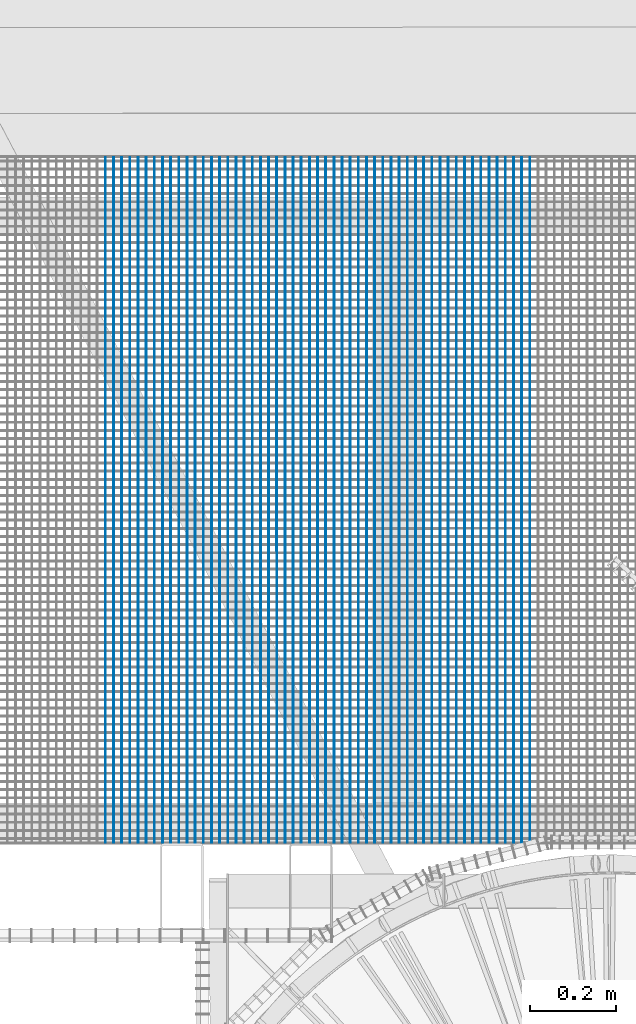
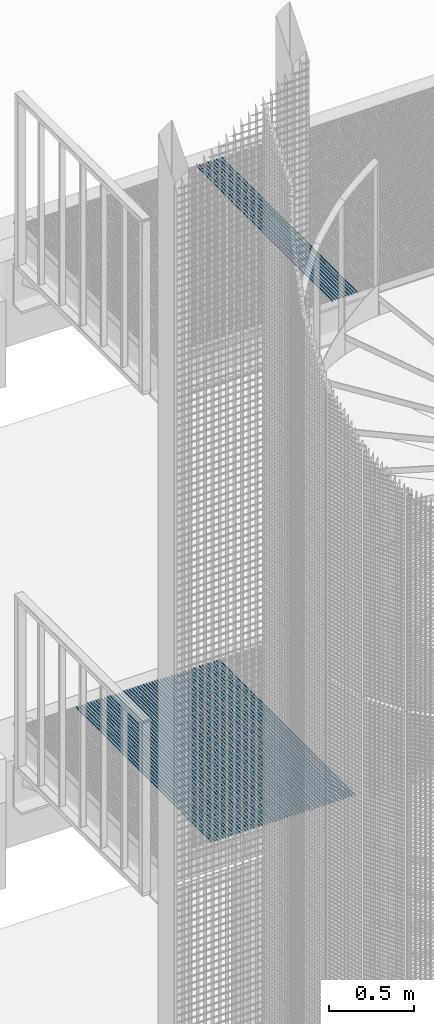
# One storey, part 94 of 1148: 62 beams, 2 elements without a shape of their own.
"""IFC2X3 building model written with IfcOpenShell, lengths in millimetres."""

from ifc_helpers import new_model, si_unit, frame, origin_with_axes, origin_2d_with_axis, place, context, subcontext, project, spatial, rectangle, extrude, material, type_object, element, aggregate, save


model = new_model("IFC2X3")

# Units and contexts
model_context = context("Model", 3, precision=1e-05, world=origin_with_axes())
body_context = subcontext(model_context, "Body", "Model", "MODEL_VIEW")
ifc_project = project(units=[si_unit("LENGTHUNIT", "METRE", prefix="MILLI"), si_unit("AREAUNIT", "SQUARE_METRE"), si_unit("VOLUMEUNIT", "CUBIC_METRE"), si_unit("MASSUNIT", "GRAM", prefix="KILO"), si_unit("TIMEUNIT", "SECOND"), si_unit("PLANEANGLEUNIT", "RADIAN"), si_unit("SOLIDANGLEUNIT", "STERADIAN"), si_unit("THERMODYNAMICTEMPERATUREUNIT", "DEGREE_CELSIUS"), si_unit("LUMINOUSINTENSITYUNIT", "LUMEN")], contexts=[model_context])

# Site, building, storey
site_placement = place(None, origin_with_axes())
site = spatial("IfcSite", under=ifc_project, at=site_placement, Name="Undefined", CompositionType="ELEMENT")
building_placement = place(site_placement, origin_with_axes())
building = spatial("IfcBuilding", under=site, at=building_placement, Name="Undefined", CompositionType="ELEMENT")
storey_placement = place(building_placement, origin_with_axes())
storey = spatial("IfcBuildingStorey", under=building, at=storey_placement, Name="Undefined", CompositionType="ELEMENT", Elevation=0.0)

# Assembly, beams
assembly_1_placement = place(storey_placement, origin_with_axes())
assembly_1 = element("IfcElementAssembly", 1, at=assembly_1_placement, inside=storey, Name="BORDURE", AssemblyPlace="NOTDEFINED", PredefinedType="NOTDEFINED")
ifc_material = material(Name="STEEL/S235JR")
beam_type = type_object("IfcBeamType", Name="PL2*10", PredefinedType="NOTDEFINED")
beam_1_placement = place(assembly_1_placement, frame((21239.1154247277, 1102.00054218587, 13685.0), z_axis=(0.0, 0.0, 1.0), x_axis=(-4.50599999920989e-06, 0.999999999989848, 0.0)))
beam_1 = element("IfcBeam", 2, at=beam_1_placement, type_object=beam_type, material=ifc_material, Name="ENTRETOISE", context=body_context, shape_type="SweptSolid", body=[
    extrude(rectangle(XDim=2.0, YDim=10.0, at=origin_2d_with_axis()), frame((1596.0000000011, -1.35186458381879e-18, -7.27595761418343e-12), z_axis=(-1.0, 0.0, 0.0), x_axis=(0.0, -1.0, 0.0)), (0.0, 0.0, 1.0), 1596.0),
])
beam_2_placement = place(assembly_1_placement, frame((21258.1154247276, 1102.00063570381, 13685.0), z_axis=(0.0, 0.0, 1.0), x_axis=(-4.50599999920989e-06, 0.999999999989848, 0.0)))
beam_2 = element("IfcBeam", 3, at=beam_2_placement, type_object=beam_type, material=ifc_material, Name="ENTRETOISE", context=body_context, shape_type="SweptSolid", body=[
    extrude(rectangle(XDim=2.0, YDim=10.0, at=origin_2d_with_axis()), frame((1596.0000000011, -1.35186458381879e-18, -7.27595761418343e-12), z_axis=(-1.0, 0.0, 0.0), x_axis=(0.0, -1.0, 0.0)), (0.0, 0.0, 1.0), 1596.0),
])
beam_3_placement = place(assembly_1_placement, frame((21277.1154247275, 1102.00072922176, 13685.0), z_axis=(0.0, 0.0, 1.0), x_axis=(-4.50599999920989e-06, 0.999999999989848, 0.0)))
beam_3 = element("IfcBeam", 4, at=beam_3_placement, type_object=beam_type, material=ifc_material, Name="ENTRETOISE", context=body_context, shape_type="SweptSolid", body=[
    extrude(rectangle(XDim=2.0, YDim=10.0, at=origin_2d_with_axis()), frame((1596.0000000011, -1.35186458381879e-18, -7.27595761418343e-12), z_axis=(-1.0, 0.0, 0.0), x_axis=(0.0, -1.0, 0.0)), (0.0, 0.0, 1.0), 1596.0),
])
beam_4_placement = place(assembly_1_placement, frame((21296.1154247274, 1102.00082273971, 13685.0), z_axis=(0.0, 0.0, 1.0), x_axis=(-4.50599999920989e-06, 0.999999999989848, 0.0)))
beam_4 = element("IfcBeam", 5, at=beam_4_placement, type_object=beam_type, material=ifc_material, Name="ENTRETOISE", context=body_context, shape_type="SweptSolid", body=[
    extrude(rectangle(XDim=2.0, YDim=10.0, at=origin_2d_with_axis()), frame((1596.0000000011, -1.35186458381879e-18, -7.27595761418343e-12), z_axis=(-1.0, 0.0, 0.0), x_axis=(0.0, -1.0, 0.0)), (0.0, 0.0, 1.0), 1596.0),
])
beam_5_placement = place(assembly_1_placement, frame((21315.1154247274, 1102.00091625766, 13685.0), z_axis=(0.0, 0.0, 1.0), x_axis=(-4.50599999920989e-06, 0.999999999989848, 0.0)))
beam_5 = element("IfcBeam", 6, at=beam_5_placement, type_object=beam_type, material=ifc_material, Name="ENTRETOISE", context=body_context, shape_type="SweptSolid", body=[
    extrude(rectangle(XDim=2.0, YDim=10.0, at=origin_2d_with_axis()), frame((1596.0000000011, -1.35186458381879e-18, -7.27595761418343e-12), z_axis=(-1.0, 0.0, 0.0), x_axis=(0.0, -1.0, 0.0)), (0.0, 0.0, 1.0), 1596.0),
])
beam_6_placement = place(assembly_1_placement, frame((21334.1154247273, 1102.00100977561, 13685.0), z_axis=(0.0, 0.0, 1.0), x_axis=(-4.50599999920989e-06, 0.999999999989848, 0.0)))
beam_6 = element("IfcBeam", 7, at=beam_6_placement, type_object=beam_type, material=ifc_material, Name="ENTRETOISE", context=body_context, shape_type="SweptSolid", body=[
    extrude(rectangle(XDim=2.0, YDim=10.0, at=origin_2d_with_axis()), frame((1596.0000000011, -1.35186458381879e-18, -7.27595761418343e-12), z_axis=(-1.0, 0.0, 0.0), x_axis=(0.0, -1.0, 0.0)), (0.0, 0.0, 1.0), 1596.0),
])
beam_7_placement = place(assembly_1_placement, frame((21353.1154247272, 1102.00110329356, 13685.0), z_axis=(0.0, 0.0, 1.0), x_axis=(-4.50599999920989e-06, 0.999999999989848, 0.0)))
beam_7 = element("IfcBeam", 8, at=beam_7_placement, type_object=beam_type, material=ifc_material, Name="ENTRETOISE", context=body_context, shape_type="SweptSolid", body=[
    extrude(rectangle(XDim=2.0, YDim=10.0, at=origin_2d_with_axis()), frame((1596.0000000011, -1.35186458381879e-18, -7.27595761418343e-12), z_axis=(-1.0, 0.0, 0.0), x_axis=(0.0, -1.0, 0.0)), (0.0, 0.0, 1.0), 1596.0),
])
beam_8_placement = place(assembly_1_placement, frame((21372.1154247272, 1102.00119681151, 13685.0), z_axis=(0.0, 0.0, 1.0), x_axis=(-4.50599999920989e-06, 0.999999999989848, 0.0)))
beam_8 = element("IfcBeam", 9, at=beam_8_placement, type_object=beam_type, material=ifc_material, Name="ENTRETOISE", context=body_context, shape_type="SweptSolid", body=[
    extrude(rectangle(XDim=2.0, YDim=10.0, at=origin_2d_with_axis()), frame((1596.0000000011, -1.35186458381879e-18, -7.27595761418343e-12), z_axis=(-1.0, 0.0, 0.0), x_axis=(0.0, -1.0, 0.0)), (0.0, 0.0, 1.0), 1596.0),
])
beam_9_placement = place(assembly_1_placement, frame((21391.1154247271, 1102.00129032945, 13685.0), z_axis=(0.0, 0.0, 1.0), x_axis=(-4.50599999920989e-06, 0.999999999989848, 0.0)))
beam_9 = element("IfcBeam", 10, at=beam_9_placement, type_object=beam_type, material=ifc_material, Name="ENTRETOISE", context=body_context, shape_type="SweptSolid", body=[
    extrude(rectangle(XDim=2.0, YDim=10.0, at=origin_2d_with_axis()), frame((1596.0000000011, -1.35186458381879e-18, -7.27595761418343e-12), z_axis=(-1.0, 0.0, 0.0), x_axis=(0.0, -1.0, 0.0)), (0.0, 0.0, 1.0), 1596.0),
])
beam_10_placement = place(assembly_1_placement, frame((21410.115424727, 1102.0013838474, 13685.0), z_axis=(0.0, 0.0, 1.0), x_axis=(-4.50599999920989e-06, 0.999999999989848, 0.0)))
beam_10 = element("IfcBeam", 11, at=beam_10_placement, type_object=beam_type, material=ifc_material, Name="ENTRETOISE", context=body_context, shape_type="SweptSolid", body=[
    extrude(rectangle(XDim=2.0, YDim=10.0, at=origin_2d_with_axis()), frame((1596.0000000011, -1.35186458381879e-18, -7.27595761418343e-12), z_axis=(-1.0, 0.0, 0.0), x_axis=(0.0, -1.0, 0.0)), (0.0, 0.0, 1.0), 1596.0),
])
aggregate(assembly_1, [beam_1, beam_2, beam_3, beam_4, beam_5, beam_6, beam_7, beam_8, beam_9, beam_10])

assembly_2_placement = place(storey_placement, origin_with_axes())
assembly_2 = element("IfcElementAssembly", 12, at=assembly_2_placement, inside=storey, Name="BORDURE", AssemblyPlace="NOTDEFINED", PredefinedType="NOTDEFINED")
beam_11_placement = place(assembly_2_placement, frame((20422.1154247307, 1101.99652091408, 10085.0), z_axis=(0.0, 0.0, 1.0), x_axis=(-4.50599999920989e-06, 0.999999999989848, 0.0)))
beam_11 = element("IfcBeam", 13, at=beam_11_placement, type_object=beam_type, material=ifc_material, Name="ENTRETOISE", context=body_context, shape_type="SweptSolid", body=[
    extrude(rectangle(XDim=2.0, YDim=10.0, at=origin_2d_with_axis()), frame((1596.0000000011, -1.35186458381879e-18, -7.27595761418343e-12), z_axis=(-1.0, 0.0, 0.0), x_axis=(0.0, -1.0, 0.0)), (0.0, 0.0, 1.0), 1596.0),
])
beam_12_placement = place(assembly_2_placement, frame((20441.1154247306, 1101.99661443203, 10085.0), z_axis=(0.0, 0.0, 1.0), x_axis=(-4.50599999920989e-06, 0.999999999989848, 0.0)))
beam_12 = element("IfcBeam", 14, at=beam_12_placement, type_object=beam_type, material=ifc_material, Name="ENTRETOISE", context=body_context, shape_type="SweptSolid", body=[
    extrude(rectangle(XDim=2.0, YDim=10.0, at=origin_2d_with_axis()), frame((1596.0000000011, -1.35186458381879e-18, -7.27595761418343e-12), z_axis=(-1.0, 0.0, 0.0), x_axis=(0.0, -1.0, 0.0)), (0.0, 0.0, 1.0), 1596.0),
])
beam_13_placement = place(assembly_2_placement, frame((20460.1154247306, 1101.99670794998, 10085.0), z_axis=(0.0, 0.0, 1.0), x_axis=(-4.50599999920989e-06, 0.999999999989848, 0.0)))
beam_13 = element("IfcBeam", 15, at=beam_13_placement, type_object=beam_type, material=ifc_material, Name="ENTRETOISE", context=body_context, shape_type="SweptSolid", body=[
    extrude(rectangle(XDim=2.0, YDim=10.0, at=origin_2d_with_axis()), frame((1596.0000000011, -1.35186458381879e-18, -7.27595761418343e-12), z_axis=(-1.0, 0.0, 0.0), x_axis=(0.0, -1.0, 0.0)), (0.0, 0.0, 1.0), 1596.0),
])
beam_14_placement = place(assembly_2_placement, frame((20479.1154247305, 1101.99680146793, 10085.0), z_axis=(0.0, 0.0, 1.0), x_axis=(-4.50599999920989e-06, 0.999999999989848, 0.0)))
beam_14 = element("IfcBeam", 16, at=beam_14_placement, type_object=beam_type, material=ifc_material, Name="ENTRETOISE", context=body_context, shape_type="SweptSolid", body=[
    extrude(rectangle(XDim=2.0, YDim=10.0, at=origin_2d_with_axis()), frame((1596.0000000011, -1.35186458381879e-18, -7.27595761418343e-12), z_axis=(-1.0, 0.0, 0.0), x_axis=(0.0, -1.0, 0.0)), (0.0, 0.0, 1.0), 1596.0),
])
beam_15_placement = place(assembly_2_placement, frame((20498.1154247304, 1101.99689498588, 10085.0), z_axis=(0.0, 0.0, 1.0), x_axis=(-4.50599999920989e-06, 0.999999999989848, 0.0)))
beam_15 = element("IfcBeam", 17, at=beam_15_placement, type_object=beam_type, material=ifc_material, Name="ENTRETOISE", context=body_context, shape_type="SweptSolid", body=[
    extrude(rectangle(XDim=2.0, YDim=10.0, at=origin_2d_with_axis()), frame((1596.0000000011, -1.35186458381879e-18, -7.27595761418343e-12), z_axis=(-1.0, 0.0, 0.0), x_axis=(0.0, -1.0, 0.0)), (0.0, 0.0, 1.0), 1596.0),
])
beam_16_placement = place(assembly_2_placement, frame((20517.1154247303, 1101.99698850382, 10085.0), z_axis=(0.0, 0.0, 1.0), x_axis=(-4.50599999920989e-06, 0.999999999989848, 0.0)))
beam_16 = element("IfcBeam", 18, at=beam_16_placement, type_object=beam_type, material=ifc_material, Name="ENTRETOISE", context=body_context, shape_type="SweptSolid", body=[
    extrude(rectangle(XDim=2.0, YDim=10.0, at=origin_2d_with_axis()), frame((1596.0000000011, -1.35186458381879e-18, -7.27595761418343e-12), z_axis=(-1.0, 0.0, 0.0), x_axis=(0.0, -1.0, 0.0)), (0.0, 0.0, 1.0), 1596.0),
])
beam_17_placement = place(assembly_2_placement, frame((20536.1154247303, 1101.99708202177, 10085.0), z_axis=(0.0, 0.0, 1.0), x_axis=(-4.50599999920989e-06, 0.999999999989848, 0.0)))
beam_17 = element("IfcBeam", 19, at=beam_17_placement, type_object=beam_type, material=ifc_material, Name="ENTRETOISE", context=body_context, shape_type="SweptSolid", body=[
    extrude(rectangle(XDim=2.0, YDim=10.0, at=origin_2d_with_axis()), frame((1596.0000000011, -1.35186458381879e-18, -7.27595761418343e-12), z_axis=(-1.0, 0.0, 0.0), x_axis=(0.0, -1.0, 0.0)), (0.0, 0.0, 1.0), 1596.0),
])
beam_18_placement = place(assembly_2_placement, frame((20555.1154247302, 1101.99717553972, 10085.0), z_axis=(0.0, 0.0, 1.0), x_axis=(-4.50599999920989e-06, 0.999999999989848, 0.0)))
beam_18 = element("IfcBeam", 20, at=beam_18_placement, type_object=beam_type, material=ifc_material, Name="ENTRETOISE", context=body_context, shape_type="SweptSolid", body=[
    extrude(rectangle(XDim=2.0, YDim=10.0, at=origin_2d_with_axis()), frame((1596.0000000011, -1.35186458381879e-18, -7.27595761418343e-12), z_axis=(-1.0, 0.0, 0.0), x_axis=(0.0, -1.0, 0.0)), (0.0, 0.0, 1.0), 1596.0),
])
beam_19_placement = place(assembly_2_placement, frame((20574.1154247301, 1101.99726905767, 10085.0), z_axis=(0.0, 0.0, 1.0), x_axis=(-4.50599999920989e-06, 0.999999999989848, 0.0)))
beam_19 = element("IfcBeam", 21, at=beam_19_placement, type_object=beam_type, material=ifc_material, Name="ENTRETOISE", context=body_context, shape_type="SweptSolid", body=[
    extrude(rectangle(XDim=2.0, YDim=10.0, at=origin_2d_with_axis()), frame((1596.0000000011, -1.35186458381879e-18, -7.27595761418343e-12), z_axis=(-1.0, 0.0, 0.0), x_axis=(0.0, -1.0, 0.0)), (0.0, 0.0, 1.0), 1596.0),
])
beam_20_placement = place(assembly_2_placement, frame((20593.1154247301, 1101.99736257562, 10085.0), z_axis=(0.0, 0.0, 1.0), x_axis=(-4.50599999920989e-06, 0.999999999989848, 0.0)))
beam_20 = element("IfcBeam", 22, at=beam_20_placement, type_object=beam_type, material=ifc_material, Name="ENTRETOISE", context=body_context, shape_type="SweptSolid", body=[
    extrude(rectangle(XDim=2.0, YDim=10.0, at=origin_2d_with_axis()), frame((1596.0000000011, -1.35186458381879e-18, -7.27595761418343e-12), z_axis=(-1.0, 0.0, 0.0), x_axis=(0.0, -1.0, 0.0)), (0.0, 0.0, 1.0), 1596.0),
])
beam_21_placement = place(assembly_2_placement, frame((20612.11542473, 1101.99745609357, 10085.0), z_axis=(0.0, 0.0, 1.0), x_axis=(-4.50599999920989e-06, 0.999999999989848, 0.0)))
beam_21 = element("IfcBeam", 23, at=beam_21_placement, type_object=beam_type, material=ifc_material, Name="ENTRETOISE", context=body_context, shape_type="SweptSolid", body=[
    extrude(rectangle(XDim=2.0, YDim=10.0, at=origin_2d_with_axis()), frame((1596.0000000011, -1.35186458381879e-18, -7.27595761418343e-12), z_axis=(-1.0, 0.0, 0.0), x_axis=(0.0, -1.0, 0.0)), (0.0, 0.0, 1.0), 1596.0),
])
beam_22_placement = place(assembly_2_placement, frame((20631.1154247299, 1101.99754961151, 10085.0), z_axis=(0.0, 0.0, 1.0), x_axis=(-4.50599999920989e-06, 0.999999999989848, 0.0)))
beam_22 = element("IfcBeam", 24, at=beam_22_placement, type_object=beam_type, material=ifc_material, Name="ENTRETOISE", context=body_context, shape_type="SweptSolid", body=[
    extrude(rectangle(XDim=2.0, YDim=10.0, at=origin_2d_with_axis()), frame((1596.0000000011, -1.35186458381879e-18, -7.27595761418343e-12), z_axis=(-1.0, 0.0, 0.0), x_axis=(0.0, -1.0, 0.0)), (0.0, 0.0, 1.0), 1596.0),
])
beam_23_placement = place(assembly_2_placement, frame((20650.1154247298, 1101.99764312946, 10085.0), z_axis=(0.0, 0.0, 1.0), x_axis=(-4.50599999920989e-06, 0.999999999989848, 0.0)))
beam_23 = element("IfcBeam", 25, at=beam_23_placement, type_object=beam_type, material=ifc_material, Name="ENTRETOISE", context=body_context, shape_type="SweptSolid", body=[
    extrude(rectangle(XDim=2.0, YDim=10.0, at=origin_2d_with_axis()), frame((1596.0000000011, -1.35186458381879e-18, -7.27595761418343e-12), z_axis=(-1.0, 0.0, 0.0), x_axis=(0.0, -1.0, 0.0)), (0.0, 0.0, 1.0), 1596.0),
])
beam_24_placement = place(assembly_2_placement, frame((20669.1154247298, 1101.99773664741, 10085.0), z_axis=(0.0, 0.0, 1.0), x_axis=(-4.50599999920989e-06, 0.999999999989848, 0.0)))
beam_24 = element("IfcBeam", 26, at=beam_24_placement, type_object=beam_type, material=ifc_material, Name="ENTRETOISE", context=body_context, shape_type="SweptSolid", body=[
    extrude(rectangle(XDim=2.0, YDim=10.0, at=origin_2d_with_axis()), frame((1596.0000000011, -1.35186458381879e-18, -7.27595761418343e-12), z_axis=(-1.0, 0.0, 0.0), x_axis=(0.0, -1.0, 0.0)), (0.0, 0.0, 1.0), 1596.0),
])
beam_25_placement = place(assembly_2_placement, frame((20688.1154247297, 1101.99783016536, 10085.0), z_axis=(0.0, 0.0, 1.0), x_axis=(-4.50599999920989e-06, 0.999999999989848, 0.0)))
beam_25 = element("IfcBeam", 27, at=beam_25_placement, type_object=beam_type, material=ifc_material, Name="ENTRETOISE", context=body_context, shape_type="SweptSolid", body=[
    extrude(rectangle(XDim=2.0, YDim=10.0, at=origin_2d_with_axis()), frame((1596.0000000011, -1.35186458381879e-18, -7.27595761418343e-12), z_axis=(-1.0, 0.0, 0.0), x_axis=(0.0, -1.0, 0.0)), (0.0, 0.0, 1.0), 1596.0),
])
beam_26_placement = place(assembly_2_placement, frame((20707.1154247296, 1101.99792368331, 10085.0), z_axis=(0.0, 0.0, 1.0), x_axis=(-4.50599999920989e-06, 0.999999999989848, 0.0)))
beam_26 = element("IfcBeam", 28, at=beam_26_placement, type_object=beam_type, material=ifc_material, Name="ENTRETOISE", context=body_context, shape_type="SweptSolid", body=[
    extrude(rectangle(XDim=2.0, YDim=10.0, at=origin_2d_with_axis()), frame((1596.0000000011, -1.35186458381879e-18, -7.27595761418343e-12), z_axis=(-1.0, 0.0, 0.0), x_axis=(0.0, -1.0, 0.0)), (0.0, 0.0, 1.0), 1596.0),
])
beam_27_placement = place(assembly_2_placement, frame((20726.1154247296, 1101.99801720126, 10085.0), z_axis=(0.0, 0.0, 1.0), x_axis=(-4.50599999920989e-06, 0.999999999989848, 0.0)))
beam_27 = element("IfcBeam", 29, at=beam_27_placement, type_object=beam_type, material=ifc_material, Name="ENTRETOISE", context=body_context, shape_type="SweptSolid", body=[
    extrude(rectangle(XDim=2.0, YDim=10.0, at=origin_2d_with_axis()), frame((1596.0000000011, -1.35186458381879e-18, -7.27595761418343e-12), z_axis=(-1.0, 0.0, 0.0), x_axis=(0.0, -1.0, 0.0)), (0.0, 0.0, 1.0), 1596.0),
])
beam_28_placement = place(assembly_2_placement, frame((20745.1154247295, 1101.99811071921, 10085.0), z_axis=(0.0, 0.0, 1.0), x_axis=(-4.50599999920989e-06, 0.999999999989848, 0.0)))
beam_28 = element("IfcBeam", 30, at=beam_28_placement, type_object=beam_type, material=ifc_material, Name="ENTRETOISE", context=body_context, shape_type="SweptSolid", body=[
    extrude(rectangle(XDim=2.0, YDim=10.0, at=origin_2d_with_axis()), frame((1596.0000000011, -1.35186458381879e-18, -7.27595761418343e-12), z_axis=(-1.0, 0.0, 0.0), x_axis=(0.0, -1.0, 0.0)), (0.0, 0.0, 1.0), 1596.0),
])
beam_29_placement = place(assembly_2_placement, frame((20764.1154247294, 1101.99820423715, 10085.0), z_axis=(0.0, 0.0, 1.0), x_axis=(-4.50599999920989e-06, 0.999999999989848, 0.0)))
beam_29 = element("IfcBeam", 31, at=beam_29_placement, type_object=beam_type, material=ifc_material, Name="ENTRETOISE", context=body_context, shape_type="SweptSolid", body=[
    extrude(rectangle(XDim=2.0, YDim=10.0, at=origin_2d_with_axis()), frame((1596.0000000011, -1.35186458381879e-18, -7.27595761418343e-12), z_axis=(-1.0, 0.0, 0.0), x_axis=(0.0, -1.0, 0.0)), (0.0, 0.0, 1.0), 1596.0),
])
beam_30_placement = place(assembly_2_placement, frame((20783.1154247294, 1101.9982977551, 10085.0), z_axis=(0.0, 0.0, 1.0), x_axis=(-4.50599999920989e-06, 0.999999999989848, 0.0)))
beam_30 = element("IfcBeam", 32, at=beam_30_placement, type_object=beam_type, material=ifc_material, Name="ENTRETOISE", context=body_context, shape_type="SweptSolid", body=[
    extrude(rectangle(XDim=2.0, YDim=10.0, at=origin_2d_with_axis()), frame((1596.0000000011, -1.35186458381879e-18, -7.27595761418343e-12), z_axis=(-1.0, 0.0, 0.0), x_axis=(0.0, -1.0, 0.0)), (0.0, 0.0, 1.0), 1596.0),
])
beam_31_placement = place(assembly_2_placement, frame((20802.1154247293, 1101.99839127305, 10085.0), z_axis=(0.0, 0.0, 1.0), x_axis=(-4.50599999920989e-06, 0.999999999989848, 0.0)))
beam_31 = element("IfcBeam", 33, at=beam_31_placement, type_object=beam_type, material=ifc_material, Name="ENTRETOISE", context=body_context, shape_type="SweptSolid", body=[
    extrude(rectangle(XDim=2.0, YDim=10.0, at=origin_2d_with_axis()), frame((1596.0000000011, -1.35186458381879e-18, -7.27595761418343e-12), z_axis=(-1.0, 0.0, 0.0), x_axis=(0.0, -1.0, 0.0)), (0.0, 0.0, 1.0), 1596.0),
])
beam_32_placement = place(assembly_2_placement, frame((20821.1154247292, 1101.998484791, 10085.0), z_axis=(0.0, 0.0, 1.0), x_axis=(-4.50599999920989e-06, 0.999999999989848, 0.0)))
beam_32 = element("IfcBeam", 34, at=beam_32_placement, type_object=beam_type, material=ifc_material, Name="ENTRETOISE", context=body_context, shape_type="SweptSolid", body=[
    extrude(rectangle(XDim=2.0, YDim=10.0, at=origin_2d_with_axis()), frame((1596.0000000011, -1.35186458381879e-18, -7.27595761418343e-12), z_axis=(-1.0, 0.0, 0.0), x_axis=(0.0, -1.0, 0.0)), (0.0, 0.0, 1.0), 1596.0),
])
beam_33_placement = place(assembly_2_placement, frame((20840.1154247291, 1101.99857830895, 10085.0), z_axis=(0.0, 0.0, 1.0), x_axis=(-4.50599999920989e-06, 0.999999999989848, 0.0)))
beam_33 = element("IfcBeam", 35, at=beam_33_placement, type_object=beam_type, material=ifc_material, Name="ENTRETOISE", context=body_context, shape_type="SweptSolid", body=[
    extrude(rectangle(XDim=2.0, YDim=10.0, at=origin_2d_with_axis()), frame((1596.0000000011, -1.35186458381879e-18, -7.27595761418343e-12), z_axis=(-1.0, 0.0, 0.0), x_axis=(0.0, -1.0, 0.0)), (0.0, 0.0, 1.0), 1596.0),
])
beam_34_placement = place(assembly_2_placement, frame((20859.1154247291, 1101.9986718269, 10085.0), z_axis=(0.0, 0.0, 1.0), x_axis=(-4.50599999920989e-06, 0.999999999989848, 0.0)))
beam_34 = element("IfcBeam", 36, at=beam_34_placement, type_object=beam_type, material=ifc_material, Name="ENTRETOISE", context=body_context, shape_type="SweptSolid", body=[
    extrude(rectangle(XDim=2.0, YDim=10.0, at=origin_2d_with_axis()), frame((1596.0000000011, -1.35186458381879e-18, -7.27595761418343e-12), z_axis=(-1.0, 0.0, 0.0), x_axis=(0.0, -1.0, 0.0)), (0.0, 0.0, 1.0), 1596.0),
])
beam_35_placement = place(assembly_2_placement, frame((20878.115424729, 1101.99876534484, 10085.0), z_axis=(0.0, 0.0, 1.0), x_axis=(-4.50599999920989e-06, 0.999999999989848, 0.0)))
beam_35 = element("IfcBeam", 37, at=beam_35_placement, type_object=beam_type, material=ifc_material, Name="ENTRETOISE", context=body_context, shape_type="SweptSolid", body=[
    extrude(rectangle(XDim=2.0, YDim=10.0, at=origin_2d_with_axis()), frame((1596.0000000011, -1.35186458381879e-18, -7.27595761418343e-12), z_axis=(-1.0, 0.0, 0.0), x_axis=(0.0, -1.0, 0.0)), (0.0, 0.0, 1.0), 1596.0),
])
beam_36_placement = place(assembly_2_placement, frame((20897.1154247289, 1101.99885886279, 10085.0), z_axis=(0.0, 0.0, 1.0), x_axis=(-4.50599999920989e-06, 0.999999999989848, 0.0)))
beam_36 = element("IfcBeam", 38, at=beam_36_placement, type_object=beam_type, material=ifc_material, Name="ENTRETOISE", context=body_context, shape_type="SweptSolid", body=[
    extrude(rectangle(XDim=2.0, YDim=10.0, at=origin_2d_with_axis()), frame((1596.0000000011, -1.35186458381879e-18, -7.27595761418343e-12), z_axis=(-1.0, 0.0, 0.0), x_axis=(0.0, -1.0, 0.0)), (0.0, 0.0, 1.0), 1596.0),
])
beam_37_placement = place(assembly_2_placement, frame((20916.1154247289, 1101.99895238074, 10085.0), z_axis=(0.0, 0.0, 1.0), x_axis=(-4.50599999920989e-06, 0.999999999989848, 0.0)))
beam_37 = element("IfcBeam", 39, at=beam_37_placement, type_object=beam_type, material=ifc_material, Name="ENTRETOISE", context=body_context, shape_type="SweptSolid", body=[
    extrude(rectangle(XDim=2.0, YDim=10.0, at=origin_2d_with_axis()), frame((1596.0000000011, -1.35186458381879e-18, -7.27595761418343e-12), z_axis=(-1.0, 0.0, 0.0), x_axis=(0.0, -1.0, 0.0)), (0.0, 0.0, 1.0), 1596.0),
])
beam_38_placement = place(assembly_2_placement, frame((20935.1154247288, 1101.99904589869, 10085.0), z_axis=(0.0, 0.0, 1.0), x_axis=(-4.50599999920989e-06, 0.999999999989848, 0.0)))
beam_38 = element("IfcBeam", 40, at=beam_38_placement, type_object=beam_type, material=ifc_material, Name="ENTRETOISE", context=body_context, shape_type="SweptSolid", body=[
    extrude(rectangle(XDim=2.0, YDim=10.0, at=origin_2d_with_axis()), frame((1596.0000000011, -1.35186458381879e-18, -7.27595761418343e-12), z_axis=(-1.0, 0.0, 0.0), x_axis=(0.0, -1.0, 0.0)), (0.0, 0.0, 1.0), 1596.0),
])
beam_39_placement = place(assembly_2_placement, frame((20954.1154247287, 1101.99913941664, 10085.0), z_axis=(0.0, 0.0, 1.0), x_axis=(-4.50599999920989e-06, 0.999999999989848, 0.0)))
beam_39 = element("IfcBeam", 41, at=beam_39_placement, type_object=beam_type, material=ifc_material, Name="ENTRETOISE", context=body_context, shape_type="SweptSolid", body=[
    extrude(rectangle(XDim=2.0, YDim=10.0, at=origin_2d_with_axis()), frame((1596.0000000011, -1.35186458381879e-18, -7.27595761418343e-12), z_axis=(-1.0, 0.0, 0.0), x_axis=(0.0, -1.0, 0.0)), (0.0, 0.0, 1.0), 1596.0),
])
beam_40_placement = place(assembly_2_placement, frame((20973.1154247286, 1101.99923293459, 10085.0), z_axis=(0.0, 0.0, 1.0), x_axis=(-4.50599999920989e-06, 0.999999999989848, 0.0)))
beam_40 = element("IfcBeam", 42, at=beam_40_placement, type_object=beam_type, material=ifc_material, Name="ENTRETOISE", context=body_context, shape_type="SweptSolid", body=[
    extrude(rectangle(XDim=2.0, YDim=10.0, at=origin_2d_with_axis()), frame((1596.0000000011, -1.35186458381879e-18, -7.27595761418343e-12), z_axis=(-1.0, 0.0, 0.0), x_axis=(0.0, -1.0, 0.0)), (0.0, 0.0, 1.0), 1596.0),
])
beam_41_placement = place(assembly_2_placement, frame((20992.1154247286, 1101.99932645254, 10085.0), z_axis=(0.0, 0.0, 1.0), x_axis=(-4.50599999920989e-06, 0.999999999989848, 0.0)))
beam_41 = element("IfcBeam", 43, at=beam_41_placement, type_object=beam_type, material=ifc_material, Name="ENTRETOISE", context=body_context, shape_type="SweptSolid", body=[
    extrude(rectangle(XDim=2.0, YDim=10.0, at=origin_2d_with_axis()), frame((1596.0000000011, -1.35186458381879e-18, -7.27595761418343e-12), z_axis=(-1.0, 0.0, 0.0), x_axis=(0.0, -1.0, 0.0)), (0.0, 0.0, 1.0), 1596.0),
])
beam_42_placement = place(assembly_2_placement, frame((21011.1154247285, 1101.99941997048, 10085.0), z_axis=(0.0, 0.0, 1.0), x_axis=(-4.50599999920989e-06, 0.999999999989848, 0.0)))
beam_42 = element("IfcBeam", 44, at=beam_42_placement, type_object=beam_type, material=ifc_material, Name="ENTRETOISE", context=body_context, shape_type="SweptSolid", body=[
    extrude(rectangle(XDim=2.0, YDim=10.0, at=origin_2d_with_axis()), frame((1596.0000000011, -1.35186458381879e-18, -7.27595761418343e-12), z_axis=(-1.0, 0.0, 0.0), x_axis=(0.0, -1.0, 0.0)), (0.0, 0.0, 1.0), 1596.0),
])
beam_43_placement = place(assembly_2_placement, frame((21030.1154247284, 1101.99951348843, 10085.0), z_axis=(0.0, 0.0, 1.0), x_axis=(-4.50599999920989e-06, 0.999999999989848, 0.0)))
beam_43 = element("IfcBeam", 45, at=beam_43_placement, type_object=beam_type, material=ifc_material, Name="ENTRETOISE", context=body_context, shape_type="SweptSolid", body=[
    extrude(rectangle(XDim=2.0, YDim=10.0, at=origin_2d_with_axis()), frame((1596.0000000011, -1.35186458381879e-18, -7.27595761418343e-12), z_axis=(-1.0, 0.0, 0.0), x_axis=(0.0, -1.0, 0.0)), (0.0, 0.0, 1.0), 1596.0),
])
beam_44_placement = place(assembly_2_placement, frame((21049.1154247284, 1101.99960700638, 10085.0), z_axis=(0.0, 0.0, 1.0), x_axis=(-4.50599999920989e-06, 0.999999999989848, 0.0)))
beam_44 = element("IfcBeam", 46, at=beam_44_placement, type_object=beam_type, material=ifc_material, Name="ENTRETOISE", context=body_context, shape_type="SweptSolid", body=[
    extrude(rectangle(XDim=2.0, YDim=10.0, at=origin_2d_with_axis()), frame((1596.0000000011, -1.35186458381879e-18, -7.27595761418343e-12), z_axis=(-1.0, 0.0, 0.0), x_axis=(0.0, -1.0, 0.0)), (0.0, 0.0, 1.0), 1596.0),
])
beam_45_placement = place(assembly_2_placement, frame((21068.1154247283, 1101.99970052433, 10085.0), z_axis=(0.0, 0.0, 1.0), x_axis=(-4.50599999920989e-06, 0.999999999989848, 0.0)))
beam_45 = element("IfcBeam", 47, at=beam_45_placement, type_object=beam_type, material=ifc_material, Name="ENTRETOISE", context=body_context, shape_type="SweptSolid", body=[
    extrude(rectangle(XDim=2.0, YDim=10.0, at=origin_2d_with_axis()), frame((1596.0000000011, -1.35186458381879e-18, -7.27595761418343e-12), z_axis=(-1.0, 0.0, 0.0), x_axis=(0.0, -1.0, 0.0)), (0.0, 0.0, 1.0), 1596.0),
])
beam_46_placement = place(assembly_2_placement, frame((21087.1154247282, 1101.99979404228, 10085.0), z_axis=(0.0, 0.0, 1.0), x_axis=(-4.50599999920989e-06, 0.999999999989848, 0.0)))
beam_46 = element("IfcBeam", 48, at=beam_46_placement, type_object=beam_type, material=ifc_material, Name="ENTRETOISE", context=body_context, shape_type="SweptSolid", body=[
    extrude(rectangle(XDim=2.0, YDim=10.0, at=origin_2d_with_axis()), frame((1596.0000000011, -1.35186458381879e-18, -7.27595761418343e-12), z_axis=(-1.0, 0.0, 0.0), x_axis=(0.0, -1.0, 0.0)), (0.0, 0.0, 1.0), 1596.0),
])
beam_47_placement = place(assembly_2_placement, frame((21106.1154247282, 1101.99988756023, 10085.0), z_axis=(0.0, 0.0, 1.0), x_axis=(-4.50599999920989e-06, 0.999999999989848, 0.0)))
beam_47 = element("IfcBeam", 49, at=beam_47_placement, type_object=beam_type, material=ifc_material, Name="ENTRETOISE", context=body_context, shape_type="SweptSolid", body=[
    extrude(rectangle(XDim=2.0, YDim=10.0, at=origin_2d_with_axis()), frame((1596.0000000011, -1.35186458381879e-18, -7.27595761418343e-12), z_axis=(-1.0, 0.0, 0.0), x_axis=(0.0, -1.0, 0.0)), (0.0, 0.0, 1.0), 1596.0),
])
beam_48_placement = place(assembly_2_placement, frame((21125.1154247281, 1101.99998107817, 10085.0), z_axis=(0.0, 0.0, 1.0), x_axis=(-4.50599999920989e-06, 0.999999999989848, 0.0)))
beam_48 = element("IfcBeam", 50, at=beam_48_placement, type_object=beam_type, material=ifc_material, Name="ENTRETOISE", context=body_context, shape_type="SweptSolid", body=[
    extrude(rectangle(XDim=2.0, YDim=10.0, at=origin_2d_with_axis()), frame((1596.0000000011, -1.35186458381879e-18, -7.27595761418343e-12), z_axis=(-1.0, 0.0, 0.0), x_axis=(0.0, -1.0, 0.0)), (0.0, 0.0, 1.0), 1596.0),
])
beam_49_placement = place(assembly_2_placement, frame((21144.115424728, 1102.00007459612, 10085.0), z_axis=(0.0, 0.0, 1.0), x_axis=(-4.50599999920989e-06, 0.999999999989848, 0.0)))
beam_49 = element("IfcBeam", 51, at=beam_49_placement, type_object=beam_type, material=ifc_material, Name="ENTRETOISE", context=body_context, shape_type="SweptSolid", body=[
    extrude(rectangle(XDim=2.0, YDim=10.0, at=origin_2d_with_axis()), frame((1596.0000000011, -1.35186458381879e-18, -7.27595761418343e-12), z_axis=(-1.0, 0.0, 0.0), x_axis=(0.0, -1.0, 0.0)), (0.0, 0.0, 1.0), 1596.0),
])
beam_50_placement = place(assembly_2_placement, frame((21163.1154247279, 1102.00016811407, 10085.0), z_axis=(0.0, 0.0, 1.0), x_axis=(-4.50599999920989e-06, 0.999999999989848, 0.0)))
beam_50 = element("IfcBeam", 52, at=beam_50_placement, type_object=beam_type, material=ifc_material, Name="ENTRETOISE", context=body_context, shape_type="SweptSolid", body=[
    extrude(rectangle(XDim=2.0, YDim=10.0, at=origin_2d_with_axis()), frame((1596.0000000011, -1.35186458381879e-18, -7.27595761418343e-12), z_axis=(-1.0, 0.0, 0.0), x_axis=(0.0, -1.0, 0.0)), (0.0, 0.0, 1.0), 1596.0),
])
beam_51_placement = place(assembly_2_placement, frame((21182.1154247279, 1102.00026163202, 10085.0), z_axis=(0.0, 0.0, 1.0), x_axis=(-4.50599999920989e-06, 0.999999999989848, 0.0)))
beam_51 = element("IfcBeam", 53, at=beam_51_placement, type_object=beam_type, material=ifc_material, Name="ENTRETOISE", context=body_context, shape_type="SweptSolid", body=[
    extrude(rectangle(XDim=2.0, YDim=10.0, at=origin_2d_with_axis()), frame((1596.0000000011, -1.35186458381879e-18, -7.27595761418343e-12), z_axis=(-1.0, 0.0, 0.0), x_axis=(0.0, -1.0, 0.0)), (0.0, 0.0, 1.0), 1596.0),
])
beam_52_placement = place(assembly_2_placement, frame((21201.1154247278, 1102.00035514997, 10085.0), z_axis=(0.0, 0.0, 1.0), x_axis=(-4.50599999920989e-06, 0.999999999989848, 0.0)))
beam_52 = element("IfcBeam", 54, at=beam_52_placement, type_object=beam_type, material=ifc_material, Name="ENTRETOISE", context=body_context, shape_type="SweptSolid", body=[
    extrude(rectangle(XDim=2.0, YDim=10.0, at=origin_2d_with_axis()), frame((1596.0000000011, -1.35186458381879e-18, -7.27595761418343e-12), z_axis=(-1.0, 0.0, 0.0), x_axis=(0.0, -1.0, 0.0)), (0.0, 0.0, 1.0), 1596.0),
])
beam_53_placement = place(assembly_2_placement, frame((21220.1154247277, 1102.00044866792, 10085.0), z_axis=(0.0, 0.0, 1.0), x_axis=(-4.50599999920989e-06, 0.999999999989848, 0.0)))
beam_53 = element("IfcBeam", 55, at=beam_53_placement, type_object=beam_type, material=ifc_material, Name="ENTRETOISE", context=body_context, shape_type="SweptSolid", body=[
    extrude(rectangle(XDim=2.0, YDim=10.0, at=origin_2d_with_axis()), frame((1596.0000000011, -1.35186458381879e-18, -7.27595761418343e-12), z_axis=(-1.0, 0.0, 0.0), x_axis=(0.0, -1.0, 0.0)), (0.0, 0.0, 1.0), 1596.0),
])
beam_54_placement = place(assembly_2_placement, frame((21239.1154247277, 1102.00054218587, 10085.0), z_axis=(0.0, 0.0, 1.0), x_axis=(-4.50599999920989e-06, 0.999999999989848, 0.0)))
beam_54 = element("IfcBeam", 56, at=beam_54_placement, type_object=beam_type, material=ifc_material, Name="ENTRETOISE", context=body_context, shape_type="SweptSolid", body=[
    extrude(rectangle(XDim=2.0, YDim=10.0, at=origin_2d_with_axis()), frame((1596.0000000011, -1.35186458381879e-18, -7.27595761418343e-12), z_axis=(-1.0, 0.0, 0.0), x_axis=(0.0, -1.0, 0.0)), (0.0, 0.0, 1.0), 1596.0),
])
beam_55_placement = place(assembly_2_placement, frame((21258.1154247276, 1102.00063570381, 10085.0), z_axis=(0.0, 0.0, 1.0), x_axis=(-4.50599999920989e-06, 0.999999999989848, 0.0)))
beam_55 = element("IfcBeam", 57, at=beam_55_placement, type_object=beam_type, material=ifc_material, Name="ENTRETOISE", context=body_context, shape_type="SweptSolid", body=[
    extrude(rectangle(XDim=2.0, YDim=10.0, at=origin_2d_with_axis()), frame((1596.0000000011, -1.35186458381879e-18, -7.27595761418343e-12), z_axis=(-1.0, 0.0, 0.0), x_axis=(0.0, -1.0, 0.0)), (0.0, 0.0, 1.0), 1596.0),
])
beam_56_placement = place(assembly_2_placement, frame((21277.1154247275, 1102.00072922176, 10085.0), z_axis=(0.0, 0.0, 1.0), x_axis=(-4.50599999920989e-06, 0.999999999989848, 0.0)))
beam_56 = element("IfcBeam", 58, at=beam_56_placement, type_object=beam_type, material=ifc_material, Name="ENTRETOISE", context=body_context, shape_type="SweptSolid", body=[
    extrude(rectangle(XDim=2.0, YDim=10.0, at=origin_2d_with_axis()), frame((1596.0000000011, -1.35186458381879e-18, -7.27595761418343e-12), z_axis=(-1.0, 0.0, 0.0), x_axis=(0.0, -1.0, 0.0)), (0.0, 0.0, 1.0), 1596.0),
])
beam_57_placement = place(assembly_2_placement, frame((21296.1154247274, 1102.00082273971, 10085.0), z_axis=(0.0, 0.0, 1.0), x_axis=(-4.50599999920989e-06, 0.999999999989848, 0.0)))
beam_57 = element("IfcBeam", 59, at=beam_57_placement, type_object=beam_type, material=ifc_material, Name="ENTRETOISE", context=body_context, shape_type="SweptSolid", body=[
    extrude(rectangle(XDim=2.0, YDim=10.0, at=origin_2d_with_axis()), frame((1596.0000000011, -1.35186458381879e-18, -7.27595761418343e-12), z_axis=(-1.0, 0.0, 0.0), x_axis=(0.0, -1.0, 0.0)), (0.0, 0.0, 1.0), 1596.0),
])
beam_58_placement = place(assembly_2_placement, frame((21315.1154247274, 1102.00091625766, 10085.0), z_axis=(0.0, 0.0, 1.0), x_axis=(-4.50599999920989e-06, 0.999999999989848, 0.0)))
beam_58 = element("IfcBeam", 60, at=beam_58_placement, type_object=beam_type, material=ifc_material, Name="ENTRETOISE", context=body_context, shape_type="SweptSolid", body=[
    extrude(rectangle(XDim=2.0, YDim=10.0, at=origin_2d_with_axis()), frame((1596.0000000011, -1.35186458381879e-18, -7.27595761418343e-12), z_axis=(-1.0, 0.0, 0.0), x_axis=(0.0, -1.0, 0.0)), (0.0, 0.0, 1.0), 1596.0),
])
beam_59_placement = place(assembly_2_placement, frame((21334.1154247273, 1102.00100977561, 10085.0), z_axis=(0.0, 0.0, 1.0), x_axis=(-4.50599999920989e-06, 0.999999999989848, 0.0)))
beam_59 = element("IfcBeam", 61, at=beam_59_placement, type_object=beam_type, material=ifc_material, Name="ENTRETOISE", context=body_context, shape_type="SweptSolid", body=[
    extrude(rectangle(XDim=2.0, YDim=10.0, at=origin_2d_with_axis()), frame((1596.0000000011, -1.35186458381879e-18, -7.27595761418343e-12), z_axis=(-1.0, 0.0, 0.0), x_axis=(0.0, -1.0, 0.0)), (0.0, 0.0, 1.0), 1596.0),
])
beam_60_placement = place(assembly_2_placement, frame((21353.1154247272, 1102.00110329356, 10085.0), z_axis=(0.0, 0.0, 1.0), x_axis=(-4.50599999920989e-06, 0.999999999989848, 0.0)))
beam_60 = element("IfcBeam", 62, at=beam_60_placement, type_object=beam_type, material=ifc_material, Name="ENTRETOISE", context=body_context, shape_type="SweptSolid", body=[
    extrude(rectangle(XDim=2.0, YDim=10.0, at=origin_2d_with_axis()), frame((1596.0000000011, -1.35186458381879e-18, -7.27595761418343e-12), z_axis=(-1.0, 0.0, 0.0), x_axis=(0.0, -1.0, 0.0)), (0.0, 0.0, 1.0), 1596.0),
])
beam_61_placement = place(assembly_2_placement, frame((21372.1154247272, 1102.0011968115, 10085.0), z_axis=(0.0, 0.0, 1.0), x_axis=(-4.50599999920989e-06, 0.999999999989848, 0.0)))
beam_61 = element("IfcBeam", 63, at=beam_61_placement, type_object=beam_type, material=ifc_material, Name="ENTRETOISE", context=body_context, shape_type="SweptSolid", body=[
    extrude(rectangle(XDim=2.0, YDim=10.0, at=origin_2d_with_axis()), frame((1596.0000000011, -1.35186458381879e-18, -7.27595761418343e-12), z_axis=(-1.0, 0.0, 0.0), x_axis=(0.0, -1.0, 0.0)), (0.0, 0.0, 1.0), 1596.0),
])
beam_62_placement = place(assembly_2_placement, frame((21391.1154247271, 1102.00129032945, 10085.0), z_axis=(0.0, 0.0, 1.0), x_axis=(-4.50599999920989e-06, 0.999999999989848, 0.0)))
beam_62 = element("IfcBeam", 64, at=beam_62_placement, type_object=beam_type, material=ifc_material, Name="ENTRETOISE", context=body_context, shape_type="SweptSolid", body=[
    extrude(rectangle(XDim=2.0, YDim=10.0, at=origin_2d_with_axis()), frame((1596.0000000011, -1.35186458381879e-18, -7.27595761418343e-12), z_axis=(-1.0, 0.0, 0.0), x_axis=(0.0, -1.0, 0.0)), (0.0, 0.0, 1.0), 1596.0),
])
aggregate(assembly_2, [beam_11, beam_12, beam_13, beam_14, beam_15, beam_16, beam_17, beam_18, beam_19, beam_20, beam_21, beam_22, beam_23, beam_24, beam_25, beam_26, beam_27, beam_28, beam_29, beam_30, beam_31, beam_32, beam_33, beam_34, beam_35, beam_36, beam_37, beam_38, beam_39, beam_40, beam_41, beam_42, beam_43, beam_44, beam_45, beam_46, beam_47, beam_48, beam_49, beam_50, beam_51, beam_52, beam_53, beam_54, beam_55, beam_56, beam_57, beam_58, beam_59, beam_60, beam_61, beam_62])

save(model, "model.ifc")
